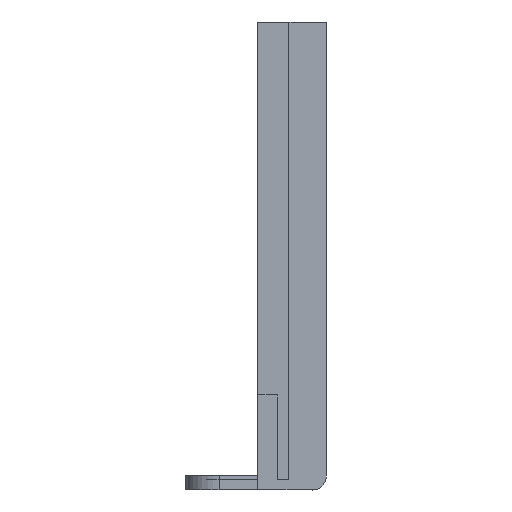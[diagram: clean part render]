
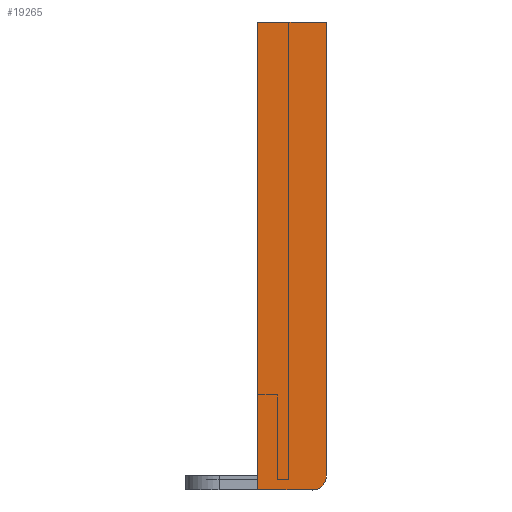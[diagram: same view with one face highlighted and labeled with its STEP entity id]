
A CAD part, front view. The second image highlights one B-rep face of the part: STEP entity #19265.
In plain terms, the highlighted planar face has unit normal (0, -1, 0).
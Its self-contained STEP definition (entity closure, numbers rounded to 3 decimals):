
#123=DIRECTION('',(-1.,0.,0.));
#124=VECTOR('',#123,15.528);
#125=CARTESIAN_POINT('',(347.2,105.,-135.));
#126=LINE('',#125,#124);
#6903=DIRECTION('',(0.,0.,-1.));
#6904=VECTOR('',#6903,129.);
#6905=CARTESIAN_POINT('',(351.2,105.,-2.));
#6906=LINE('',#6905,#6904);
#7280=DIRECTION('',(-1.,0.,0.));
#7281=VECTOR('',#7280,19.528);
#7282=CARTESIAN_POINT('',(351.2,105.,-2.));
#7283=LINE('',#7282,#7281);
#7284=CARTESIAN_POINT('',(347.2,105.,-131.));
#7285=DIRECTION('',(0.,-1.,0.));
#7286=DIRECTION('',(0.,0.,-1.));
#7287=AXIS2_PLACEMENT_3D('',#7284,#7285,#7286);
#7297=DIRECTION('',(0.,0.,1.));
#7298=VECTOR('',#7297,133.);
#7299=CARTESIAN_POINT('',(331.672,105.,-135.));
#7300=LINE('',#7299,#7298);
#8320=CARTESIAN_POINT('',(351.2,105.,-2.));
#8321=CARTESIAN_POINT('',(351.2,105.,-131.));
#8322=VERTEX_POINT('',#8320);
#8323=VERTEX_POINT('',#8321);
#8582=CARTESIAN_POINT('',(331.672,105.,-135.));
#8584=VERTEX_POINT('',#8582);
#8588=CARTESIAN_POINT('',(331.672,105.,-2.));
#8589=VERTEX_POINT('',#8588);
#8608=CARTESIAN_POINT('',(347.2,105.,-135.));
#8609=VERTEX_POINT('',#8608);
#19252=CARTESIAN_POINT('',(351.2,105.,-135.));
#19253=DIRECTION('',(0.,-1.,0.));
#19254=DIRECTION('',(0.,0.,-1.));
#19255=AXIS2_PLACEMENT_3D('',#19252,#19253,#19254);
#19256=PLANE('',#19255);
#19258=ORIENTED_EDGE('',*,*,#19257,.T.);
#19259=ORIENTED_EDGE('',*,*,#18059,.F.);
#19260=ORIENTED_EDGE('',*,*,#18150,.T.);
#19261=ORIENTED_EDGE('',*,*,#19243,.F.);
#19262=ORIENTED_EDGE('',*,*,#10320,.T.);
#19263=EDGE_LOOP('',(#19258,#19259,#19260,#19261,#19262));
#19264=FACE_OUTER_BOUND('',#19263,.F.);
#19265=ADVANCED_FACE('',(#19264),#19256,.T.);
#7288=CIRCLE('',#7287,4.);
#10320=EDGE_CURVE('',#8609,#8584,#126,.T.);
#18059=EDGE_CURVE('',#8322,#8589,#7283,.T.);
#18150=EDGE_CURVE('',#8322,#8323,#6906,.T.);
#19243=EDGE_CURVE('',#8609,#8323,#7288,.T.);
#19257=EDGE_CURVE('',#8584,#8589,#7300,.T.);
